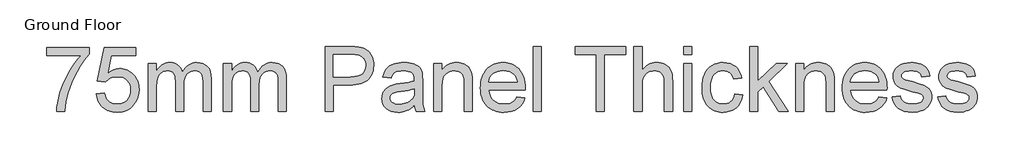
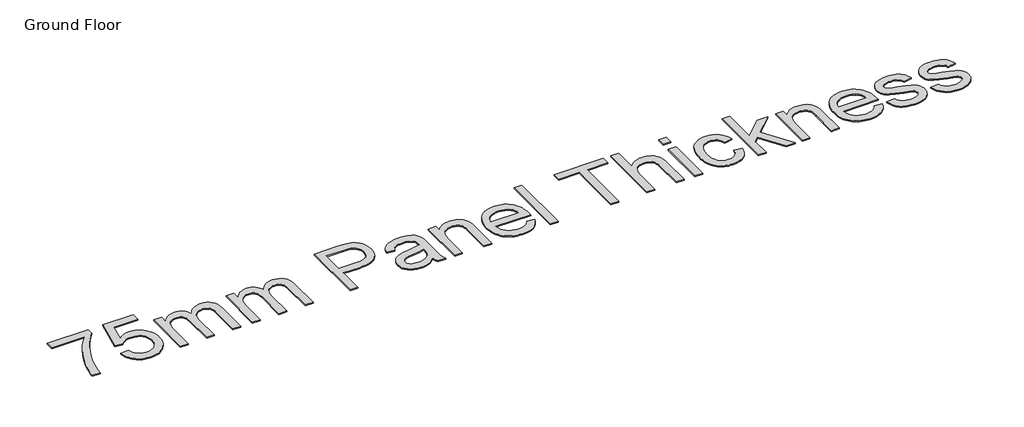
# One storey, part 7 of 11: 1 proxy.
"""IFC4 building model written with IfcOpenShell, lengths in millimetres."""

from ifc_helpers import new_model, si_unit, origin, origin_with_axes, place, context, project, spatial, polyline, outline, extrude, element, save

model = new_model("IFC4")

# Units and contexts
model_context = context("Model", 3, world=origin())
ifc_project = project(units=[si_unit("LENGTHUNIT", "METRE", prefix="MILLI")], contexts=[model_context])

# Site, building, storey
site = spatial("IfcSite", under=ifc_project)
building = spatial("IfcBuilding", under=site)
storey = spatial("IfcBuildingStorey", under=building, Name="Ground Floor", Elevation=0.0)

# Proxy
placement = place(None, origin())
element("IfcBuildingElementProxy", 1, Name="1200mm Arial", ObjectType="1200mm Arial", at=placement, inside=storey, context=model_context, shape_type="SweptSolid", body=[
    extrude(outline(polyline([(8443.1762984, 21351.9259002), (8443.1762984, 21498.8349911), (9214.4490257, 21498.8349911), (9214.4490257, 21380.0452184), (9159.34915, 21315.2075941), (9104.5182728, 21240.919153), (9049.9563943, 21157.1798952), (8995.6635143, 21063.9898206), (8944.5806841, 20965.383908), (8899.6489547, 20865.397136), (8860.8683261, 20764.0295046), (8828.2387984, 20661.2810138), (8808.7991677, 20586.6608079), (8793.2331166, 20508.5615536), (8781.540645, 20426.983251), (8773.7217529, 20341.9259002), (8626.812662, 20341.9259002), (8631.430471, 20414.0713192), (8642.7015115, 20493.3541672), (8660.6257835, 20579.7744442), (8685.203287, 20673.3321502), (8716.1470903, 20769.5888086), (8753.1702615, 20864.1059428), (8796.2728005, 20956.8835529), (8845.4547075, 21047.9216388), (8898.5012274, 21134.5481481), (8953.1976052, 21214.091028), (9009.543841, 21286.5502787), (9067.5399348, 21351.9259002), (8443.1762984, 21351.9259002)])), origin_with_axes(), (0.0, 0.0, 1.0), 20.0),
    extrude(outline(polyline([(9342.9944802, 20654.1077184), (9489.9035711, 20672.4713547), (9500.8787132, 20625.2441708), (9516.875162, 20584.2756871), (9537.8929177, 20549.5659037), (9563.9319802, 20521.1148206), (9594.9385498, 20498.9583043), (9630.8588268, 20483.1322212), (9671.6928112, 20473.6365714), (9717.4405029, 20470.4713547), (9773.3922075, 20474.8739648), (9822.7444802, 20488.0817951), (9865.4973211, 20510.0948455), (9901.6507302, 20540.9131161), (9930.3977118, 20579.0122816), (9950.93127, 20622.8680167), (9963.2514049, 20672.4803214), (9967.3581166, 20727.8491956), (9963.5114369, 20780.178386), (9951.9713978, 20826.697207), (9932.7379994, 20867.4056587), (9905.8112416, 20902.3037411), (9871.1014582, 20930.2975266), (9828.5189831, 20950.2930877), (9778.0638162, 20962.2904243), (9719.7359575, 20966.2895366), (9682.4079213, 20964.6934783), (9648.4692672, 20959.9053036), (9617.9199951, 20951.9250124), (9590.7601052, 20940.7526047), (9544.6716819, 20911.4138263), (9508.2672075, 20874.4713547), (9361.3581166, 20892.8349911), (9489.9035711, 21498.8349911), (10059.1762984, 21498.8349911), (10059.1762984, 21351.9259002), (9608.6933439, 21351.9259002), (9545.8552757, 21028.2668093), (9597.7002686, 21065.4244797), (9650.8005882, 21091.9656729), (9705.1562345, 21107.8903888), (9760.7672075, 21113.1986275), (9797.2680731, 21111.5532528), (9832.311863, 21106.6171289), (9865.8985773, 21098.3902557), (9898.028216, 21086.8726331), (9928.700779, 21072.0642613), (9957.9162664, 21053.9651402), (9985.6746782, 21032.5752699), (10011.9760143, 21007.8946502), (10035.9505127, 20980.6271608), (10056.7284113, 20951.4766814), (10074.3097102, 20920.443212), (10088.6944092, 20887.5267525), (10099.8825085, 20852.7273029), (10107.8740079, 20816.0448633), (10112.6689076, 20777.4794336), (10114.2672075, 20737.0310138), (10108.5106379, 20660.9223491), (10091.2409291, 20590.1219229), (10062.4580811, 20524.6297354), (10022.1620939, 20464.4457866), (9992.9129816, 20431.4262109), (9961.1173495, 20402.8092454), (9926.7751976, 20378.5948899), (9889.8865257, 20358.7831445), (9850.4513339, 20343.3740092), (9808.4696223, 20332.367484), (9763.9413907, 20325.7635689), (9716.8666393, 20323.5622638), (9641.053873, 20329.2202006), (9605.8980003, 20336.2926216), (9572.5758012, 20346.194011), (9541.0872759, 20358.9243688), (9511.4324241, 20374.4836949), (9483.611246, 20392.8719895), (9457.6237416, 20414.0892525), (9433.8958252, 20437.6423198), (9412.8534113, 20463.0380273), (9394.4964999, 20490.2763752), (9378.825091, 20519.3573633), (9355.5387806, 20583.0472603), (9342.9944802, 20654.1077184)])), origin_with_axes(), (0.0, 0.0, 1.0), 20.0),
    extrude(outline(polyline([(10279.5399348, 20341.9259002), (10279.5399348, 21205.0168093), (10426.4490257, 21205.0168093), (10426.4490257, 21062.9855593), (10446.9646507, 21097.3725444), (10470.6365257, 21128.2266814), (10497.4646507, 21155.5479705), (10527.4490257, 21179.3364116), (10560.1054532, 21198.6056765), (10594.9497359, 21212.3694371), (10631.9818737, 21220.6276935), (10671.2018666, 21223.3804456), (10714.0802402, 21220.5738938), (10752.9057018, 21212.1542383), (10787.6782515, 21198.121479), (10818.3978893, 21178.4756161), (10844.974949, 21153.7725799), (10867.3197643, 21124.5683008), (10885.4323353, 21090.8627787), (10899.312662, 21052.6560138), (10925.1454923, 21092.6695525), (10952.8613126, 21127.3479527), (10982.460123, 21156.6912145), (11013.9419234, 21180.6993377), (11047.3067139, 21199.3723224), (11082.5544944, 21212.7101687), (11119.685265, 21220.7128764), (11158.6990257, 21223.3804456), (11217.5110818, 21218.9419691), (11269.1319092, 21205.6265394), (11313.5615079, 21183.4341566), (11350.7998779, 21152.3648206), (11380.2372892, 21112.0598668), (11401.2640115, 21062.1606303), (11413.8800449, 21002.6671111), (11418.0853893, 20933.5793093), (11418.0853893, 20341.9259002), (11271.1762984, 20341.9259002), (11271.1762984, 20870.4543093), (11267.7689831, 20943.7295223), (11257.547037, 20993.1176616), (11249.351547, 21010.9343341), (11238.3943382, 21026.9397496), (11224.6754106, 21041.133908), (11208.1947643, 21053.5168093), (11189.5531627, 21063.5594229), (11169.3513694, 21070.7327184), (11124.2672075, 21076.4713547), (11082.635194, 21072.7950408), (11044.6794944, 21061.7660991), (11010.4001088, 21043.3845294), (10979.797037, 21017.650332), (10954.6277366, 20983.8103107), (10936.6496649, 20941.1112695), (10925.8628218, 20889.5532084), (10922.2672075, 20829.1361275), (10922.2672075, 20341.9259002), (10775.3581166, 20341.9259002), (10775.3581166, 20886.8094229), (10773.2330278, 20931.3197212), (10766.8577615, 20969.8761843), (10756.2323176, 21002.4788121), (10741.3566961, 21029.1276047), (10721.6391002, 21049.8404954), (10696.4877331, 21064.6354172), (10665.9025946, 21073.5123704), (10629.8836848, 21076.4713547), (10601.0291038, 21074.4986985), (10573.2863836, 21068.5807297), (10546.6555243, 21058.7174485), (10521.1365257, 21044.9088547), (10497.8950484, 21027.2984144), (10478.0967529, 21006.0295934), (10461.7416393, 20981.1023917), (10448.8297075, 20952.5168093), (10439.0381592, 20918.7485209), (10432.0441961, 20878.2732013), (10426.4490257, 20777.2014684), (10426.4490257, 20341.9259002), (10279.5399348, 20341.9259002)])), origin_with_axes(), (0.0, 0.0, 1.0), 20.0),
    extrude(outline(polyline([(11638.4490257, 20341.9259002), (11638.4490257, 21205.0168093), (11785.3581166, 21205.0168093), (11785.3581166, 21062.9855593), (11805.8737416, 21097.3725444), (11829.5456166, 21128.2266814), (11856.3737416, 21155.5479705), (11886.3581166, 21179.3364116), (11919.0145441, 21198.6056765), (11953.8588268, 21212.3694371), (11990.8909646, 21220.6276935), (12030.1109575, 21223.3804456), (12072.9893311, 21220.5738938), (12111.8147927, 21212.1542383), (12146.5873424, 21198.121479), (12177.3069802, 21178.4756161), (12203.8840399, 21153.7725799), (12226.2288552, 21124.5683008), (12244.3414262, 21090.8627787), (12258.2217529, 21052.6560138), (12284.0545832, 21092.6695525), (12311.7704035, 21127.3479527), (12341.3692139, 21156.6912145), (12372.8510143, 21180.6993377), (12406.2158048, 21199.3723224), (12441.4635853, 21212.7101687), (12478.5943559, 21220.7128764), (12517.6081166, 21223.3804456), (12576.4201727, 21218.9419691), (12628.0410001, 21205.6265394), (12672.4705988, 21183.4341566), (12709.7089689, 21152.3648206), (12739.1463801, 21112.0598668), (12760.1731024, 21062.1606303), (12772.7891358, 21002.6671111), (12776.9944802, 20933.5793093), (12776.9944802, 20341.9259002), (12630.0853893, 20341.9259002), (12630.0853893, 20870.4543093), (12626.678074, 20943.7295223), (12616.4561279, 20993.1176616), (12608.2606379, 21010.9343341), (12597.3034291, 21026.9397496), (12583.5845015, 21041.133908), (12567.1038552, 21053.5168093), (12548.4622537, 21063.5594229), (12528.2604603, 21070.7327184), (12483.1762984, 21076.4713547), (12441.5442849, 21072.7950408), (12403.5885853, 21061.7660991), (12369.3091997, 21043.3845294), (12338.7061279, 21017.650332), (12313.5368275, 20983.8103107), (12295.5587558, 20941.1112695), (12284.7719127, 20889.5532084), (12281.1762984, 20829.1361275), (12281.1762984, 20341.9259002), (12134.2672075, 20341.9259002), (12134.2672075, 20886.8094229), (12132.1421187, 20931.3197212), (12125.7668524, 20969.8761843), (12115.1414085, 21002.4788121), (12100.265787, 21029.1276047), (12080.5481912, 21049.8404954), (12055.396824, 21064.6354172), (12024.8116855, 21073.5123704), (11988.7927757, 21076.4713547), (11959.9381947, 21074.4986985), (11932.1954745, 21068.5807297), (11905.5646152, 21058.7174485), (11880.0456166, 21044.9088547), (11856.8041393, 21027.2984144), (11837.0058439, 21006.0295934), (11820.6507302, 20981.1023917), (11807.7387984, 20952.5168093), (11797.9472501, 20918.7485209), (11790.953287, 20878.2732013), (11785.3581166, 20777.2014684), (11785.3581166, 20341.9259002), (11638.4490257, 20341.9259002)])), origin_with_axes(), (0.0, 0.0, 1.0), 20.0),
    extrude(outline(polyline([(13474.812662, 20341.9259002), (13474.812662, 21517.1986275), (13910.375162, 21517.1986275), (14011.8055598, 21514.4010422), (14085.9774348, 21506.0082866), (14126.8562522, 21497.1940998), (14164.2739547, 21485.0981303), (14198.230542, 21469.7203782), (14228.7260143, 21451.0608434), (14256.0831699, 21428.7339613), (14280.6248069, 21402.3541672), (14302.3509255, 21371.9214613), (14321.2615257, 21337.4358434), (14336.5765115, 21300.0360742), (14347.515787, 21260.8609144), (14354.0793524, 21219.910364), (14356.2672075, 21177.1844229), (14350.3582054, 21105.0390039), (14342.9719527, 21071.1317329), (14332.631199, 21038.6680877), (14319.3359442, 21007.6480682), (14303.0861883, 20978.0716743), (14283.8819314, 20949.9389062), (14261.7231734, 20923.2497638), (14235.7087691, 20898.9053924), (14204.9375733, 20877.8069371), (14169.4095859, 20859.9543981), (14129.1248069, 20845.3477752), (14084.0832364, 20833.9870685), (14034.2848744, 20825.872278), (13979.7297208, 20821.0034037), (13920.4177757, 20819.3804456), (13621.7217529, 20819.3804456), (13621.7217529, 20341.9259002), (13474.812662, 20341.9259002)]), holes=[polyline([(13621.7217529, 20966.2895366), (13929.0257302, 20966.2895366), (13999.6826904, 20969.6609854), (14059.2927757, 20979.775332), (14107.8559859, 20996.6325763), (14145.3723211, 21020.2327184), (14173.3661066, 21049.9480948), (14193.3616677, 21085.1510422), (14205.3590044, 21125.8415607), (14209.3581166, 21172.0196502), (14206.9998957, 21206.3080025), (14199.9252331, 21238.0139684), (14188.1341287, 21267.1375479), (14171.6265825, 21293.6787411), (14151.2813233, 21316.7767525), (14127.9770797, 21335.5707866), (14101.7138517, 21350.0608434), (14072.4916393, 21360.2469229), (14015.8226052, 21367.7788831), (13925.5825484, 21370.2895366), (13621.7217529, 21370.2895366), (13621.7217529, 20966.2895366)])]), origin_with_axes(), (0.0, 0.0, 1.0), 20.0),
    extrude(outline(polyline([(15090.812662, 20452.1077184), (15055.977346, 20419.4154243), (15020.621966, 20391.9237695), (14984.7465221, 20369.6327539), (14948.3510143, 20352.5423775), (14911.0229781, 20339.8635777), (14872.349949, 20330.8072922), (14832.331927, 20325.3735209), (14790.968912, 20323.5622638), (14725.5574241, 20327.9200408), (14668.1979603, 20340.9933718), (14618.8905207, 20362.7822567), (14577.6351052, 20393.2866956), (14545.0593772, 20430.5698988), (14521.7910001, 20472.6950763), (14507.8299738, 20519.6622283), (14503.1762984, 20571.4713547), (14504.9337558, 20602.6213902), (14510.2061279, 20632.3726331), (14518.9934149, 20660.7250834), (14531.2956166, 20687.6787411), (14546.4581699, 20712.6418093), (14563.8265115, 20735.0224911), (14583.4006414, 20754.8207866), (14605.1805598, 20772.0366956), (14653.7796365, 20800.0125479), (14708.0456166, 20820.2412411), (14760.9128041, 20831.503315), (14835.156412, 20842.3349911), (14985.3652189, 20865.5764684), (15043.3613126, 20878.7035991), (15089.9518666, 20892.8349911), (15090.812662, 20925.5452184), (15088.2840754, 20961.1606303), (15080.6983154, 20991.1091388), (15068.0553822, 21015.3907439), (15050.3552757, 21034.0054456), (15019.7611706, 21052.5842809), (14982.4959007, 21065.8548775), (14938.559466, 21073.8172354), (14887.9518666, 21076.4713547), (14840.8950484, 21074.7049307), (14800.437662, 21069.4056587), (14766.5797075, 21060.5735387), (14739.3211848, 21048.2085706), (14716.9225697, 21031.3423597), (14697.6443382, 21009.006511), (14681.4864902, 20981.2010245), (14668.4490257, 20947.9259002), (14521.5399348, 20966.2895366), (14532.7213091, 21008.6119797), (14547.0410001, 21046.6304456), (14564.4990079, 21080.3449343), (14585.0953325, 21109.7554456), (14609.7176691, 21135.4537766), (14639.2537132, 21158.0317241), (14673.7034646, 21177.489288), (14713.0669234, 21193.8264684), (14756.5460605, 21206.7563334), (14803.3428467, 21215.9919513), (14853.4572821, 21221.5333221), (14906.8893666, 21223.3804456), (14959.1199241, 21221.7485209), (15006.2036422, 21216.8527468), (15048.1405207, 21208.6931232), (15084.9305598, 21197.2696502), (15116.8786244, 21183.3803569), (15144.2895797, 21167.8232723), (15167.1634255, 21150.5983966), (15185.500162, 21131.7057297), (15200.3668169, 21110.6790074), (15212.8304177, 21087.0519655), (15230.5484575, 21031.9969229), (15235.9284291, 20981.2099911), (15237.7217529, 20903.4514684), (15237.7217529, 20720.6759002), (15239.5868098, 20561.4646076), (15245.1819802, 20465.4500479), (15256.2288552, 20402.3609144), (15274.4490257, 20341.9259002), (15127.5399348, 20341.9259002), (15114.484537, 20366.4585706), (15104.0115257, 20392.9997638), (15090.812662, 20452.1077184)]), holes=[polyline([(15090.812662, 20745.9259002), (15046.4099632, 20733.211234), (14992.1081166, 20721.4649627), (14853.8069802, 20700.8776047), (14777.590716, 20689.6155309), (14727.4135143, 20677.0622638), (14694.5239547, 20660.7788831), (14670.1706166, 20638.3264684), (14655.1066961, 20611.4266104), (14650.0853893, 20581.8009002), (14652.8202082, 20558.9718874), (14661.0246649, 20538.1155309), (14674.6987593, 20519.2318306), (14693.8424916, 20502.3207866), (14718.2765292, 20488.3866601), (14747.8215399, 20478.4337127), (14782.4775235, 20472.4619442), (14822.2444802, 20470.4713547), (14862.8453325, 20472.6681765), (14901.1507302, 20479.2586417), (14937.1606734, 20490.2427503), (14970.875162, 20505.6205025), (15001.2899348, 20524.1186381), (15027.4007302, 20544.4638973), (15049.2075484, 20566.6562802), (15066.7103893, 20590.6957866), (15076.8785356, 20612.2156729), (15084.1414973, 20638.3264684), (15088.4992743, 20669.0281729), (15089.9518666, 20704.3207866), (15090.812662, 20745.9259002)])]), origin_with_axes(), (0.0, 0.0, 1.0), 20.0),
    extrude(outline(polyline([(15439.7217529, 20341.9259002), (15439.7217529, 21205.0168093), (15586.6308439, 21205.0168093), (15586.6308439, 21084.5054456), (15610.8676159, 21117.0542738), (15637.668841, 21145.2632581), (15667.0345193, 21169.1323988), (15698.9646507, 21188.6616956), (15733.4592352, 21203.8511488), (15770.5182728, 21214.7007581), (15810.1417636, 21221.2105238), (15852.3297075, 21223.3804456), (15889.2990789, 21221.6319549), (15924.7441251, 21216.3864826), (15958.664846, 21207.6440287), (15991.0612416, 21195.4045934), (16020.7048851, 21180.3227397), (16046.3673495, 21163.0530309), (16068.0486351, 21143.5954669), (16085.7487416, 21121.9500479), (16112.4692672, 21072.2032439), (16129.7927757, 21013.9202184), (16135.603145, 20958.1837127), (16137.5399348, 20871.8889684), (16137.5399348, 20341.9259002), (15990.6308439, 20341.9259002), (15990.6308439, 20852.0906729), (15986.3985995, 20928.0558718), (15981.1082941, 20957.8071147), (15973.7018666, 20982.0707866), (15963.6144199, 21002.505712), (15950.2810569, 21020.7707155), (15933.7017778, 21036.8657972), (15913.8765825, 21050.790957), (15891.4869341, 21062.026131), (15867.2142956, 21070.0512553), (15841.058667, 21074.8663299), (15813.0200484, 21076.4713547), (15768.4111173, 21072.8667738), (15726.9763694, 21062.0530309), (15688.7158048, 21044.030126), (15653.6294234, 21018.7980593), (15637.9266313, 21002.7612606), (15624.3175449, 20983.4875124), (15612.802164, 20960.9768146), (15603.3804887, 20935.2291672), (15590.8182551, 20874.0230238), (15586.6308439, 20799.869082), (15586.6308439, 20341.9259002), (15439.7217529, 20341.9259002)])), origin_with_axes(), (0.0, 0.0, 1.0), 20.0),
    extrude(outline(polyline([(16943.8183439, 20599.0168093), (17087.8581166, 20580.6531729), (17065.7733332, 20522.9619442), (17035.959324, 20472.1212127), (16998.4160889, 20428.1309783), (16953.1436279, 20390.9912411), (16900.6082054, 20361.4910635), (16841.2760853, 20340.4195081), (16775.1472679, 20327.7765749), (16702.2217529, 20323.5622638), (16655.4025502, 20325.3802459), (16611.067101, 20330.8341921), (16569.2154053, 20339.9241024), (16529.8474632, 20352.6499769), (16492.9632746, 20369.0118155), (16458.5628396, 20389.0096182), (16426.6461581, 20412.6433851), (16397.2132302, 20439.9131161), (16370.7841198, 20470.4646298), (16347.8788907, 20503.9437446), (16328.4975431, 20540.3504607), (16312.6400768, 20579.684778), (16300.3064919, 20621.9466965), (16291.4967885, 20667.1362162), (16286.2109664, 20715.2533372), (16284.4490257, 20766.2980593), (16286.2288996, 20819.0800639), (16291.5685214, 20868.8223846), (16300.4678911, 20915.5250213), (16312.9270086, 20959.1879741), (16328.945874, 20999.8112429), (16348.5244873, 21037.3948277), (16371.6628485, 21071.9387287), (16398.3609575, 21103.4429456), (16427.8970015, 21131.5532972), (16459.5491677, 21155.9156019), (16493.3174561, 21176.5298597), (16529.2018666, 21193.3960706), (16567.2023993, 21206.5142347), (16607.3190541, 21215.8843519), (16649.5518311, 21221.5064222), (16693.9007302, 21223.3804456), (16736.7992787, 21221.5109055), (16777.6937877, 21215.9022851), (16816.5842574, 21206.5545845), (16853.4706876, 21193.4678036), (16888.3530784, 21176.6419424), (16921.2314298, 21156.077001), (16952.1057418, 21131.7729794), (16980.9760143, 21103.7298775), (17007.1025014, 21072.2973934), (17029.7454568, 21037.8252255), (17048.9048806, 21000.3133736), (17064.5807728, 20959.7618377), (17076.7731335, 20916.1706179), (17085.4819625, 20869.5397141), (17090.7072599, 20819.8691264), (17092.4490257, 20767.1588547), (17091.5882302, 20727.5622638), (16431.3581166, 20727.5622638), (16439.8674383, 20668.9385067), (16456.787449, 20617.5956445), (16482.1181485, 20573.5336772), (16515.859537, 20536.7526047), (16556.1465576, 20507.7545579), (16601.1141535, 20487.0416672), (16650.7623247, 20474.6139329), (16705.0910711, 20470.4713547), (16745.7277899, 20472.3902113), (16783.2799916, 20478.1467809), (16817.7476762, 20487.7410635), (16849.1308439, 20501.1730593), (16877.4294944, 20518.8014329), (16902.6436279, 20540.9848491), (16924.7732444, 20567.7233079), (16943.8183439, 20599.0168093)]), holes=[polyline([(16431.3581166, 20874.4713547), (16945.5399348, 20874.4713547), (16937.9900413, 20916.0406019), (16925.6699064, 20952.0864116), (16908.5795299, 20982.6087837), (16886.718912, 21007.6077184), (16846.6560569, 21037.7355593), (16801.0697643, 21059.2554456), (16749.9600342, 21072.1673775), (16693.3268666, 21076.4713547), (16641.6701727, 21073.0371395), (16594.2995228, 21062.7344939), (16551.214917, 21045.5634179), (16512.4163552, 21021.5239116), (16479.8585605, 20991.7278356), (16455.4962558, 20957.2870508), (16439.3294412, 20918.2015571), (16431.3581166, 20874.4713547)])]), origin_with_axes(), (0.0, 0.0, 1.0), 20.0),
    extrude(outline(polyline([(17239.3581166, 20341.9259002), (17239.3581166, 21517.1986275), (17386.2672075, 21517.1986275), (17386.2672075, 20341.9259002), (17239.3581166, 20341.9259002)])), origin_with_axes(), (0.0, 0.0, 1.0), 20.0),
    extrude(outline(polyline([(18377.9035711, 20341.9259002), (18377.9035711, 21370.2895366), (17992.2672075, 21370.2895366), (17992.2672075, 21517.1986275), (18910.4490257, 21517.1986275), (18910.4490257, 21370.2895366), (18524.812662, 21370.2895366), (18524.812662, 20341.9259002), (18377.9035711, 20341.9259002)])), origin_with_axes(), (0.0, 0.0, 1.0), 20.0),
    extrude(outline(polyline([(19057.3581166, 20341.9259002), (19057.3581166, 21517.1986275), (19204.2672075, 21517.1986275), (19204.2672075, 21085.0793093), (19230.4183527, 21117.4936381), (19258.2283226, 21145.5860564), (19287.6971169, 21169.3565642), (19318.8247359, 21188.8051616), (19351.6111794, 21203.9318483), (19386.0564476, 21214.7366246), (19422.1605402, 21221.2194904), (19459.9234575, 21223.3804456), (19505.8504816, 21221.0222248), (19548.6571223, 21213.9475621), (19588.3433794, 21202.1564577), (19624.9092529, 21185.6489116), (19657.4222146, 21164.980854), (19684.9497359, 21140.7082155), (19707.4918169, 21112.8309961), (19725.0484575, 21081.3491956), (19738.2293879, 21044.3170579), (19747.6443382, 20999.7888263), (19753.2933083, 20947.764501), (19755.1762984, 20888.244082), (19755.1762984, 20341.9259002), (19608.2672075, 20341.9259002), (19608.2672075, 20873.0366956), (19605.3440896, 20922.6400337), (19596.5747359, 20964.9983434), (19581.9591464, 21000.1116246), (19561.4973211, 21027.9798775), (19535.6734575, 21049.1948988), (19504.9717529, 21064.3484854), (19469.3922075, 21073.4406374), (19428.9348211, 21076.4713547), (19397.4171542, 21074.4269655), (19366.849949, 21068.2937979), (19337.2332054, 21058.0718519), (19308.5669234, 21043.7611275), (19282.4023282, 21025.9534215), (19260.290645, 21005.2405309), (19242.2318737, 20981.6224556), (19228.2260143, 20955.0991956), (19217.7440363, 20924.4512908), (19210.2569092, 20888.4592809), (19205.7646329, 20847.1231658), (19204.2672075, 20800.4429456), (19204.2672075, 20341.9259002), (19057.3581166, 20341.9259002)])), origin_with_axes(), (0.0, 0.0, 1.0), 20.0),
    extrude(outline(polyline([(19957.1762984, 21370.2895366), (19957.1762984, 21517.1986275), (20104.0853893, 21517.1986275), (20104.0853893, 21370.2895366), (19957.1762984, 21370.2895366)])), origin_with_axes(), (0.0, 0.0, 1.0), 20.0),
    extrude(outline(polyline([(19957.1762984, 20341.9259002), (19957.1762984, 21205.0168093), (20104.0853893, 21205.0168093), (20104.0853893, 20341.9259002), (19957.1762984, 20341.9259002)])), origin_with_axes(), (0.0, 0.0, 1.0), 20.0),
    extrude(outline(polyline([(20875.3581166, 20654.1077184), (21022.2672075, 20635.744082), (21006.2886919, 20566.4231481), (20981.3076904, 20505.0825053), (20947.3242032, 20451.7221537), (20904.3382302, 20406.3420934), (20854.1610285, 20370.1259179), (20798.6038552, 20344.2572212), (20737.6667103, 20328.7360032), (20671.3495939, 20323.5622638), (20629.0876754, 20325.366796), (20588.9553289, 20330.7803924), (20550.9525546, 20339.8030531), (20515.0793524, 20352.434778), (20481.3357222, 20368.6755673), (20449.7216642, 20388.5254208), (20420.2371782, 20411.9843386), (20392.8822643, 20439.0523206), (20368.2352695, 20469.4917516), (20346.8745406, 20503.065016), (20328.8000777, 20539.7721138), (20314.0118808, 20579.6130451), (20302.5099499, 20622.5878098), (20294.2942849, 20668.696408), (20289.3648859, 20717.9388396), (20287.7217529, 20770.3151047), (20290.5283048, 20837.8606481), (20298.9479603, 20901.0484144), (20312.9807196, 20959.8784037), (20332.6265825, 21014.3506161), (20358.0200484, 21063.3711239), (20389.2956166, 21105.8459996), (20426.453287, 21141.7752432), (20469.4930598, 21171.1588547), (20516.4691784, 21194.0058008), (20565.4358865, 21210.3250479), (20616.3931841, 21220.1165962), (20669.3410711, 21223.3804456), (20734.519427, 21218.897136), (20793.474949, 21205.447207), (20846.2076372, 21183.0306587), (20892.7174916, 21151.6474911), (20932.2154497, 21112.0150337), (20963.912449, 21064.8506161), (20987.8084895, 21010.1542383), (21003.9035711, 20947.9259002), (20856.9944802, 20929.5622638), (20845.5261741, 20963.877516), (20830.3456876, 20993.6556587), (20811.4530207, 21018.8966921), (20788.8481734, 21039.6006161), (20763.1050093, 21055.7315642), (20734.7973922, 21067.2536701), (20703.9253218, 21074.1669336), (20670.4887984, 21076.4713547), (20620.5716287, 21071.9342454), (20575.5502331, 21058.3229172), (20535.4246116, 21035.6373704), (20500.1947643, 21003.8776047), (20484.8282205, 20984.4110742), (20471.5105491, 20962.3083576), (20451.021824, 20910.1943661), (20438.7285889, 20847.5356303), (20434.6308439, 20774.3321502), (20438.6389227, 20700.0257759), (20450.6631592, 20636.6407439), (20470.7035534, 20584.1770543), (20483.7298096, 20562.0407129), (20498.7601052, 20542.634707), (20533.2905562, 20511.0632404), (20572.7526478, 20488.5121928), (20617.1463801, 20474.9815642), (20666.4717529, 20470.4713547), (20706.2207764, 20473.2868732), (20742.5445512, 20481.7334286), (20775.4430775, 20495.8110209), (20804.9163552, 20515.5196502), (20830.1394554, 20541.0745152), (20850.287449, 20572.690815), (20865.360336, 20610.3685493), (20875.3581166, 20654.1077184)])), origin_with_axes(), (0.0, 0.0, 1.0), 20.0),
    extrude(outline(polyline([(21150.812662, 20341.9259002), (21150.812662, 21517.1986275), (21297.7217529, 21517.1986275), (21297.7217529, 20885.6616956), (21627.1194802, 21205.0168093), (21830.2672075, 21205.0168093), (21496.8524348, 20881.6446502), (21848.6308439, 20341.9259002), (21677.0456166, 20341.9259002), (21391.5484575, 20779.4969229), (21297.7217529, 20688.5395366), (21297.7217529, 20341.9259002), (21150.812662, 20341.9259002)])), origin_with_axes(), (0.0, 0.0, 1.0), 20.0),
    extrude(outline(polyline([(21977.1762984, 20341.9259002), (21977.1762984, 21205.0168093), (22124.0853893, 21205.0168093), (22124.0853893, 21084.5054456), (22148.3221613, 21117.0542738), (22175.1233865, 21145.2632581), (22204.4890647, 21169.1323988), (22236.4191961, 21188.6616956), (22270.9137806, 21203.8511488), (22307.9728183, 21214.7007581), (22347.5963091, 21221.2105238), (22389.7842529, 21223.3804456), (22426.7536244, 21221.6319549), (22462.1986706, 21216.3864826), (22496.1193914, 21207.6440287), (22528.515787, 21195.4045934), (22558.1594305, 21180.3227397), (22583.821895, 21163.0530309), (22605.5031805, 21143.5954669), (22623.203287, 21121.9500479), (22649.9238126, 21072.2032439), (22667.2473211, 21013.9202184), (22673.0576904, 20958.1837127), (22674.9944802, 20871.8889684), (22674.9944802, 20341.9259002), (22528.0853893, 20341.9259002), (22528.0853893, 20852.0906729), (22523.853145, 20928.0558718), (22518.5628396, 20957.8071147), (22511.156412, 20982.0707866), (22501.0689653, 21002.505712), (22487.7356024, 21020.7707155), (22471.1563233, 21036.8657972), (22451.3311279, 21050.790957), (22428.9414795, 21062.026131), (22404.668841, 21070.0512553), (22378.5132125, 21074.8663299), (22350.4745939, 21076.4713547), (22305.8656627, 21072.8667738), (22264.4309149, 21062.0530309), (22226.1703502, 21044.030126), (22191.0839689, 21018.7980593), (22175.3811768, 21002.7612606), (22161.7720903, 20983.4875124), (22150.2567094, 20960.9768146), (22140.8350342, 20935.2291672), (22128.2728005, 20874.0230238), (22124.0853893, 20799.869082), (22124.0853893, 20341.9259002), (21977.1762984, 20341.9259002)])), origin_with_axes(), (0.0, 0.0, 1.0), 20.0),
    extrude(outline(polyline([(23481.2728893, 20599.0168093), (23625.312662, 20580.6531729), (23603.2278787, 20522.9619442), (23573.4138694, 20472.1212127), (23535.8706343, 20428.1309783), (23490.5981734, 20390.9912411), (23438.0627508, 20361.4910635), (23378.7306308, 20340.4195081), (23312.6018133, 20327.7765749), (23239.6762984, 20323.5622638), (23192.8570956, 20325.3802459), (23148.5216464, 20330.8341921), (23106.6699507, 20339.9241024), (23067.3020086, 20352.6499769), (23030.4178201, 20369.0118155), (22996.0173851, 20389.0096182), (22964.1007036, 20412.6433851), (22934.6677757, 20439.9131161), (22908.2386652, 20470.4646298), (22885.3334362, 20503.9437446), (22865.9520885, 20540.3504607), (22850.0946223, 20579.684778), (22837.7610374, 20621.9466965), (22828.9513339, 20667.1362162), (22823.6655118, 20715.2533372), (22821.9035711, 20766.2980593), (22823.6834451, 20819.0800639), (22829.0230669, 20868.8223846), (22837.9224365, 20915.5250213), (22850.3815541, 20959.1879741), (22866.4004195, 20999.8112429), (22885.9790328, 21037.3948277), (22909.1173939, 21071.9387287), (22935.8155029, 21103.4429456), (22965.351547, 21131.5532972), (22997.0037132, 21155.9156019), (23030.7720015, 21176.5298597), (23066.656412, 21193.3960706), (23104.6569447, 21206.5142347), (23144.7735995, 21215.8843519), (23187.0063765, 21221.5064222), (23231.3552757, 21223.3804456), (23274.2538241, 21221.5109055), (23315.1483332, 21215.9022851), (23354.0388028, 21206.5545845), (23390.9252331, 21193.4678036), (23425.8076239, 21176.6419424), (23458.6859752, 21156.077001), (23489.5602872, 21131.7729794), (23518.4305598, 21103.7298775), (23544.5570468, 21072.2973934), (23567.2000022, 21037.8252255), (23586.3594261, 21000.3133736), (23602.0353183, 20959.7618377), (23614.2276789, 20916.1706179), (23622.9365079, 20869.5397141), (23628.1618053, 20819.8691264), (23629.9035711, 20767.1588547), (23629.0427757, 20727.5622638), (22968.812662, 20727.5622638), (22977.3219838, 20668.9385067), (22994.2419944, 20617.5956445), (23019.572694, 20573.5336772), (23053.3140825, 20536.7526047), (23093.6011031, 20507.7545579), (23138.568699, 20487.0416672), (23188.2168701, 20474.6139329), (23242.5456166, 20470.4713547), (23283.1823353, 20472.3902113), (23320.734537, 20478.1467809), (23355.2022217, 20487.7410635), (23386.5853893, 20501.1730593), (23414.8840399, 20518.8014329), (23440.0981734, 20540.9848491), (23462.2277899, 20567.7233079), (23481.2728893, 20599.0168093)]), holes=[polyline([(22968.812662, 20874.4713547), (23482.9944802, 20874.4713547), (23475.4445868, 20916.0406019), (23463.1244518, 20952.0864116), (23446.0340754, 20982.6087837), (23424.1734575, 21007.6077184), (23384.1106024, 21037.7355593), (23338.5243098, 21059.2554456), (23287.4145797, 21072.1673775), (23230.781412, 21076.4713547), (23179.1247181, 21073.0371395), (23131.7540683, 21062.7344939), (23088.6694625, 21045.5634179), (23049.8709007, 21021.5239116), (23017.3131059, 20991.7278356), (22992.9508012, 20957.2870508), (22976.7839866, 20918.2015571), (22968.812662, 20874.4713547)])]), origin_with_axes(), (0.0, 0.0, 1.0), 20.0),
    extrude(outline(polyline([(23721.7217529, 20599.0168093), (23868.6308439, 20617.3804456), (23877.507797, 20583.8811559), (23891.8005882, 20554.5423775), (23911.5092174, 20529.3641104), (23936.6336848, 20508.3463547), (23967.2457231, 20491.7760422), (24003.4170654, 20479.9401047), (24045.1477118, 20472.8385422), (24092.437662, 20470.4713547), (24139.6738126, 20472.6412766), (24180.3822643, 20479.1510422), (24214.5630172, 20490.0006516), (24242.2160711, 20505.1901047), (24263.5566251, 20523.3026758), (24278.7998779, 20542.9216388), (24287.9458297, 20564.0469939), (24290.9944802, 20586.6787411), (24287.9278964, 20606.512903), (24278.728145, 20624.1233434), (24263.395226, 20639.5100621), (24241.9291393, 20652.6730593), (24186.9099632, 20671.3236275), (24090.7160711, 20694.5651047), (23956.6471791, 20733.3367667), (23869.4916393, 20766.4415252), (23839.5700306, 20783.0387375), (23813.5040683, 20802.5590678), (23791.2937522, 20825.002516), (23772.9390825, 20850.369082), (23758.5655917, 20877.8966033), (23748.2988126, 20906.8229172), (23742.1387451, 20937.1480238), (23740.0853893, 20968.8719229), (23741.7352473, 20997.8789364), (23746.6848211, 21025.7920223), (23754.9341109, 21052.6111807), (23766.4831166, 21078.3364116), (23780.8835072, 21102.4476509), (23797.6869518, 21124.4248348), (23816.8934504, 21144.2679634), (23838.5030029, 21161.9770366), (23879.0679887, 21185.6130451), (23931.8993098, 21205.447207), (23992.9799206, 21218.897136), (24058.2927757, 21223.3804456), (24107.6629816, 21221.5781552), (24153.9128041, 21216.1712837), (24197.042243, 21207.1598313), (24237.0512984, 21194.5437979), (24272.9895086, 21178.8522141), (24303.906412, 21160.6141104), (24329.8020086, 21139.8294868), (24350.6762984, 21116.4983434), (24367.6052757, 21089.8047177), (24381.6649348, 21058.9326473), (24392.8552757, 21023.8821324), (24401.1762984, 20984.6531729), (24254.2672075, 20966.2895366), (24247.2642778, 20990.8311736), (24235.7242387, 21012.5214258), (24219.6470903, 21031.3602929), (24199.0328325, 21047.3477752), (24173.7917991, 21060.0893412), (24143.834324, 21069.1904598), (24109.1604071, 21074.651131), (24069.7700484, 21076.4713547), (24024.0761564, 21074.7318306), (23985.4120939, 21069.5132581), (23953.7778609, 21060.8156374), (23929.1734575, 21048.6389684), (23910.7201549, 21034.1489116), (23897.5392245, 21018.5111275), (23889.6306663, 21001.7256161), (23886.9944802, 20983.7923775), (23891.3701904, 20961.1964968), (23904.4973211, 20941.0395366), (23926.9497359, 20923.034565), (23959.3012984, 20908.6162411), (24085.8382302, 20877.3406729), (24215.6390115, 20838.9635422), (24301.4674916, 20808.1901047), (24331.6670654, 20793.179984), (24358.4234575, 20775.1212127), (24381.7366677, 20754.0137908), (24401.6066961, 20729.8577184), (24417.4865789, 20702.6171289), (24428.8293524, 20672.2561559), (24435.6350164, 20638.7747993), (24437.9035711, 20602.1730593), (24435.2404852, 20565.4099201), (24427.2512274, 20529.7227752), (24413.9357977, 20495.1116246), (24395.2941961, 20461.5764684), (24371.6312877, 20430.4533327), (24343.2519376, 20403.0782439), (24310.1561457, 20379.451202), (24272.343912, 20359.572207), (24230.8463978, 20343.8178569), (24186.6947643, 20332.5647496), (24139.8890115, 20325.8128853), (24090.4291393, 20323.5622638), (24011.3614902, 20327.9021076), (23942.3005882, 20340.9216388), (23883.2464333, 20362.6208576), (23834.1990257, 20392.9997638), (23794.1361706, 20431.9148917), (23762.0356734, 20479.2227752), (23737.8975342, 20534.9234144), (23721.7217529, 20599.0168093)])), origin_with_axes(), (0.0, 0.0, 1.0), 20.0),
    extrude(outline(polyline([(24548.0853893, 20599.0168093), (24694.9944802, 20617.3804456), (24703.8714333, 20583.8811559), (24718.1642245, 20554.5423775), (24737.8728538, 20529.3641104), (24762.9973211, 20508.3463547), (24793.6093595, 20491.7760422), (24829.7807018, 20479.9401047), (24871.5113481, 20472.8385422), (24918.8012984, 20470.4713547), (24966.037449, 20472.6412766), (25006.7459007, 20479.1510422), (25040.9266535, 20490.0006516), (25068.5797075, 20505.1901047), (25089.9202615, 20523.3026758), (25105.1635143, 20542.9216388), (25114.309466, 20564.0469939), (25117.3581166, 20586.6787411), (25114.2915328, 20606.512903), (25105.0917814, 20624.1233434), (25089.7588623, 20639.5100621), (25068.2927757, 20652.6730593), (25013.2735995, 20671.3236275), (24917.0797075, 20694.5651047), (24783.0108154, 20733.3367667), (24695.8552757, 20766.4415252), (24665.933667, 20783.0387375), (24639.8677047, 20802.5590678), (24617.6573886, 20825.002516), (24599.3027189, 20850.369082), (24584.9292281, 20877.8966033), (24574.662449, 20906.8229172), (24568.5023815, 20937.1480238), (24566.4490257, 20968.8719229), (24568.0988836, 20997.8789364), (24573.0484575, 21025.7920223), (24581.2977473, 21052.6111807), (24592.8467529, 21078.3364116), (24607.2471436, 21102.4476509), (24624.0505882, 21124.4248348), (24643.2570868, 21144.2679634), (24664.8666393, 21161.9770366), (24705.4316251, 21185.6130451), (24758.2629461, 21205.447207), (24819.3435569, 21218.897136), (24884.656412, 21223.3804456), (24934.026618, 21221.5781552), (24980.2764404, 21216.1712837), (25023.4058794, 21207.1598313), (25063.4149348, 21194.5437979), (25099.353145, 21178.8522141), (25130.2700484, 21160.6141104), (25156.165645, 21139.8294868), (25177.0399348, 21116.4983434), (25193.968912, 21089.8047177), (25208.0285711, 21058.9326473), (25219.218912, 21023.8821324), (25227.5399348, 20984.6531729), (25080.6308439, 20966.2895366), (25073.6279142, 20990.8311736), (25062.0878751, 21012.5214258), (25046.0107267, 21031.3602929), (25025.3964689, 21047.3477752), (25000.1554355, 21060.0893412), (24970.1979603, 21069.1904598), (24935.5240434, 21074.651131), (24896.1336848, 21076.4713547), (24850.4397927, 21074.7318306), (24811.7757302, 21069.5132581), (24780.1414973, 21060.8156374), (24755.5370939, 21048.6389684), (24737.0837913, 21034.1489116), (24723.9028609, 21018.5111275), (24715.9943027, 21001.7256161), (24713.3581166, 20983.7923775), (24717.7338268, 20961.1964968), (24730.8609575, 20941.0395366), (24753.3133723, 20923.034565), (24785.6649348, 20908.6162411), (24912.2018666, 20877.3406729), (25042.0026478, 20838.9635422), (25127.8311279, 20808.1901047), (25158.0307018, 20793.179984), (25184.7870939, 20775.1212127), (25208.1003041, 20754.0137908), (25227.9703325, 20729.8577184), (25243.8502153, 20702.6171289), (25255.1929887, 20672.2561559), (25261.9986528, 20638.7747993), (25264.2672075, 20602.1730593), (25261.6041216, 20565.4099201), (25253.6148637, 20529.7227752), (25240.2994341, 20495.1116246), (25221.6578325, 20461.5764684), (25197.9949241, 20430.4533327), (25169.615574, 20403.0782439), (25136.5197821, 20379.451202), (25098.7075484, 20359.572207), (25057.2100342, 20343.8178569), (25013.0584007, 20332.5647496), (24966.2526478, 20325.8128853), (24916.7927757, 20323.5622638), (24837.7251265, 20327.9021076), (24768.6642245, 20340.9216388), (24709.6100697, 20362.6208576), (24660.562662, 20392.9997638), (24620.4998069, 20431.9148917), (24588.3993098, 20479.2227752), (24564.2611706, 20534.9234144), (24548.0853893, 20599.0168093)])), origin_with_axes(), (0.0, 0.0, 1.0), 20.0),
])

save(model, "model.ifc")
